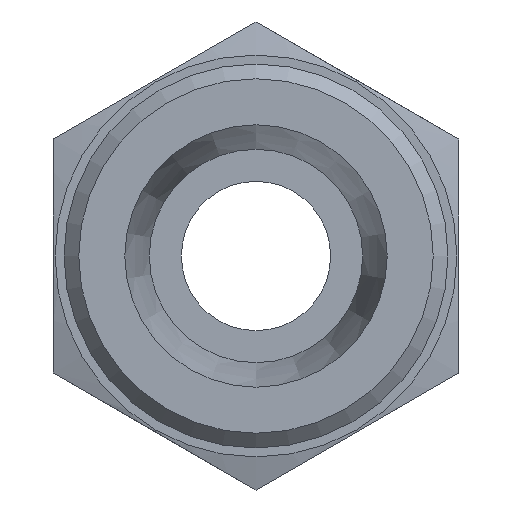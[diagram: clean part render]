
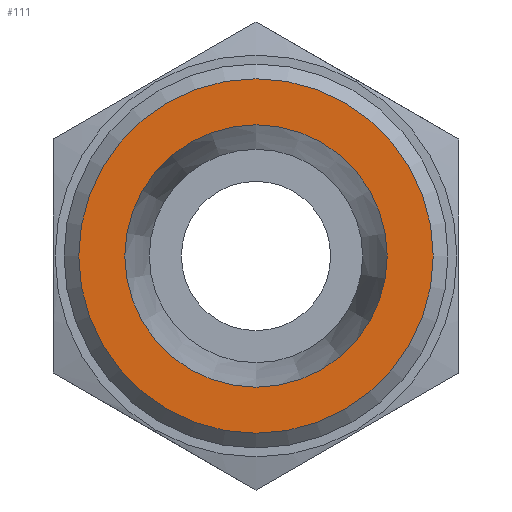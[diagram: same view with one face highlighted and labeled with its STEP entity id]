
A CAD part, left-side view. The second image highlights one B-rep face of the part: STEP entity #111.
In plain terms, the highlighted planar face has unit normal (-1, 0, 0).
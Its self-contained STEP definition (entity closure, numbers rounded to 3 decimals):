
#111 = ADVANCED_FACE( '', ( #240, #241 ), #242, .T. );
#240 = FACE_OUTER_BOUND( '', #365, .T. );
#241 = FACE_BOUND( '', #366, .T. );
#242 = PLANE( '', #367 );
#365 = EDGE_LOOP( '', ( #563 ) );
#366 = EDGE_LOOP( '', ( #564 ) );
#367 = AXIS2_PLACEMENT_3D( '', #565, #566, #567 );
#563 = ORIENTED_EDGE( '', *, *, #630, .T. );
#564 = ORIENTED_EDGE( '', *, *, #626, .F. );
#565 = CARTESIAN_POINT( '', ( -16., -9.5, -5.485 ) );
#566 = DIRECTION( '', ( -1., 0., 0. ) );
#567 = DIRECTION( '', ( 0., -1., 0. ) );
#626 = EDGE_CURVE( '', #725, #725, #726, .T. );
#630 = EDGE_CURVE( '', #731, #731, #732, .T. );
#725 = VERTEX_POINT( '', #891 );
#726 = CIRCLE( '', #892, 6.15 );
#731 = VERTEX_POINT( '', #897 );
#732 = CIRCLE( '', #898, 8.31 );
#891 = CARTESIAN_POINT( '', ( -16., 0., 6.15 ) );
#892 = AXIS2_PLACEMENT_3D( '', #1035, #1036, #1037 );
#897 = CARTESIAN_POINT( '', ( -16., -8.31, 0. ) );
#898 = AXIS2_PLACEMENT_3D( '', #1041, #1042, #1043 );
#1035 = CARTESIAN_POINT( '', ( -16., 0., 0. ) );
#1036 = DIRECTION( '', ( -1., 0., 0. ) );
#1037 = DIRECTION( '', ( 0., 0., 1. ) );
#1041 = CARTESIAN_POINT( '', ( -16., 0., 0. ) );
#1042 = DIRECTION( '', ( -1., 0., 0. ) );
#1043 = DIRECTION( '', ( 0., -1., 0. ) );
